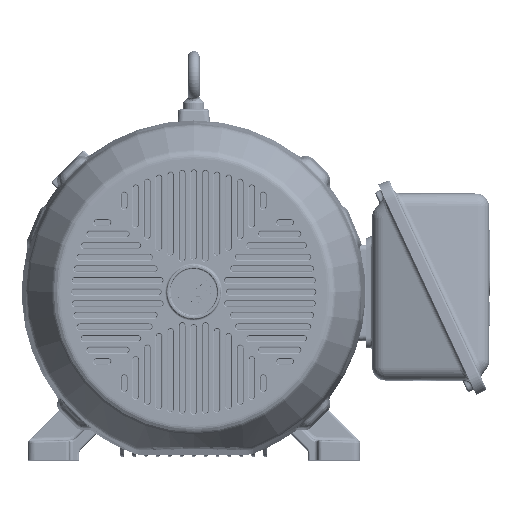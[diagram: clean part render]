
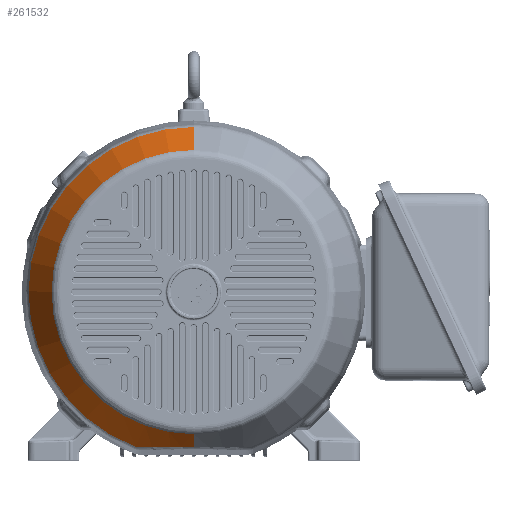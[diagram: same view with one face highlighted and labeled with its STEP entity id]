
A CAD part, top view. The second image highlights one B-rep face of the part: STEP entity #261532.
In plain terms, the highlighted conical face has half-angle 30 degrees and reference radius 255.525 mm.
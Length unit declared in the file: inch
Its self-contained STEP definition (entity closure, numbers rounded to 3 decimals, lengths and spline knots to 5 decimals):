
#253258=CARTESIAN_POINT('',(3.81286,-10.11872,
-5.82586));
#253259=CARTESIAN_POINT('',(3.65687,-10.1189,
-5.92084));
#253260=CARTESIAN_POINT('',(3.34567,-10.11941,
-6.09948));
#253261=CARTESIAN_POINT('',(2.90008,-10.12043,
-6.32573));
#253262=CARTESIAN_POINT('',(2.4157,-10.1217,
-6.53785));
#253263=CARTESIAN_POINT('',(1.90238,-10.12309,
-6.72194));
#253264=CARTESIAN_POINT('',(1.34925,-10.12442,
-6.87322));
#253265=CARTESIAN_POINT('',(0.73206,-10.12551,
-6.98374));
#253266=CARTESIAN_POINT('',(0.25443,-10.12585,
-7.01647));
#253267=CARTESIAN_POINT('',(0.,-10.12585,
-7.01647));
#253269=DIRECTION('',(0.,0.5,0.866));
#253270=VECTOR('',#253269,3.01277);
#253271=CARTESIAN_POINT('',(0.,9.30687,-8.435));
#253272=LINE('',#253271,#253270);
#253273=CARTESIAN_POINT('',(0.,0.,-8.435));
#253274=DIRECTION('',(0.,0.,-1.));
#253275=DIRECTION('',(0.,1.,0.));
#253276=AXIS2_PLACEMENT_3D('',#253273,#253274,#253275);
#253278=DIRECTION('',(0.,-0.5,0.866));
#253279=VECTOR('',#253278,1.63798);
#253280=CARTESIAN_POINT('',(0.,-9.30687,-8.435));
#253281=LINE('',#253280,#253279);
#253817=CARTESIAN_POINT('',(0.,0.,-5.82586));
#253818=DIRECTION('',(0.,0.,-1.));
#253819=DIRECTION('',(0.,1.,0.));
#253820=AXIS2_PLACEMENT_3D('',#253817,#253818,#253819);
#253832=CARTESIAN_POINT('',(0.,-10.12585,
-7.01647));
#259335=CARTESIAN_POINT('',(0.,9.30687,-8.435));
#259337=VERTEX_POINT('',#259335);
#259338=CARTESIAN_POINT('',(0.,10.81325,-5.82586));
#259339=VERTEX_POINT('',#259338);
#259341=CARTESIAN_POINT('',(0.,-9.30687,-8.435));
#259343=VERTEX_POINT('',#259341);
#259749=VERTEX_POINT('',#253832);
#259751=VERTEX_POINT('',#253258);
#261516=CARTESIAN_POINT('',(0.,0.,-7.13043));
#261517=DIRECTION('',(0.,0.,1.));
#261518=DIRECTION('',(0.,1.,0.));
#261519=AXIS2_PLACEMENT_3D('',#261516,#261517,#261518);
#261520=CONICAL_SURFACE('',#261519,10.06006,30.);
#261522=ORIENTED_EDGE('',*,*,#261521,.F.);
#261524=ORIENTED_EDGE('',*,*,#261523,.F.);
#261526=ORIENTED_EDGE('',*,*,#261525,.F.);
#261527=ORIENTED_EDGE('',*,*,#261511,.T.);
#261529=ORIENTED_EDGE('',*,*,#261528,.T.);
#261530=EDGE_LOOP('',(#261522,#261524,#261526,#261527,#261529));
#261531=FACE_OUTER_BOUND('',#261530,.F.);
#261532=ADVANCED_FACE('',(#261531),#261520,.T.);
#253268=B_SPLINE_CURVE_WITH_KNOTS('',3,(#253258,#253259,#253260,#253261,#253262,
#253263,#253264,#253265,#253266,#253267),.UNSPECIFIED.,.F.,.F.,(4,1,1,1,1,1,1,
4),(0.,0.14286,0.28571,0.42857,
0.57143,0.71429,0.85714,1.),.UNSPECIFIED.);
#253277=CIRCLE('',#253276,9.30687);
#253821=CIRCLE('',#253820,10.81325);
#261511=EDGE_CURVE('',#259337,#259343,#253277,.T.);
#261521=EDGE_CURVE('',#259751,#259749,#253268,.T.);
#261523=EDGE_CURVE('',#259339,#259751,#253821,.T.);
#261525=EDGE_CURVE('',#259337,#259339,#253272,.T.);
#261528=EDGE_CURVE('',#259343,#259749,#253281,.T.);
